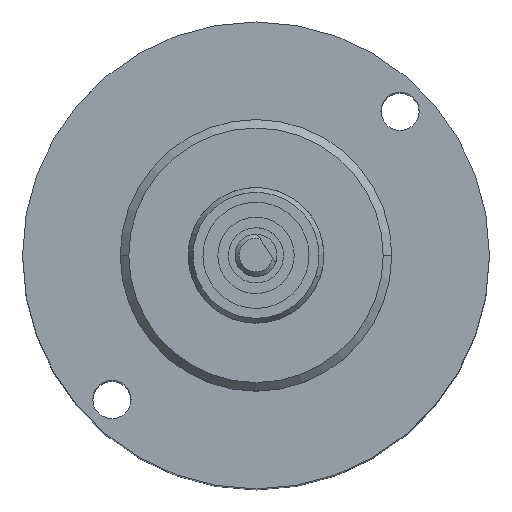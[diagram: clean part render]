
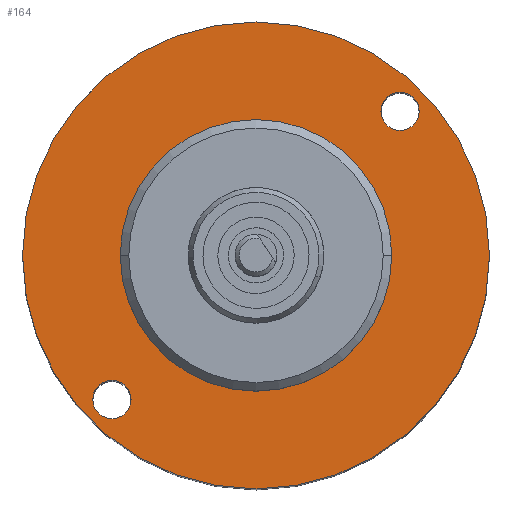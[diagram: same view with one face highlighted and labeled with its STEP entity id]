
A CAD part, top view. The second image highlights one B-rep face of the part: STEP entity #164.
In plain terms, the highlighted planar face has unit normal (0, 0, 1).
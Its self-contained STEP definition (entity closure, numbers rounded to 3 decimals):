
#10 = DIRECTION ( 'NONE',  ( 1., 0., 0. ) ) ;
#26 = CIRCLE ( 'NONE', #3374, 27.5 ) ;
#104 = ORIENTED_EDGE ( 'NONE', *, *, #1742, .F. ) ;
#164 = ADVANCED_FACE ( 'NONE', ( #1843, #1275, #2015, #1104 ), #776, .T. ) ;
#277 = AXIS2_PLACEMENT_3D ( 'NONE', #3307, #1656, #10 ) ;
#291 = AXIS2_PLACEMENT_3D ( 'NONE', #3255, #1601, #3533 ) ;
#308 = ORIENTED_EDGE ( 'NONE', *, *, #2174, .F. ) ;
#331 = VERTEX_POINT ( 'NONE', #1868 ) ;
#338 = VERTEX_POINT ( 'NONE', #3244 ) ;
#415 = VERTEX_POINT ( 'NONE', #2814 ) ;
#471 = CARTESIAN_POINT ( 'NONE',  ( 0., 0., 71. ) ) ;
#568 = CIRCLE ( 'NONE', #2908, 15.99 ) ;
#603 = AXIS2_PLACEMENT_3D ( 'NONE', #1243, #3184, #1522 ) ;
#651 = DIRECTION ( 'NONE',  ( 0., 0., 1. ) ) ;
#696 = DIRECTION ( 'NONE',  ( 1., 0., 0. ) ) ;
#725 = DIRECTION ( 'NONE',  ( 0., 0., 1. ) ) ;
#759 = DIRECTION ( 'NONE',  ( 1., 0., 0. ) ) ;
#776 = PLANE ( 'NONE',  #2319 ) ;
#791 = CIRCLE ( 'NONE', #291, 15.99 ) ;
#895 = ORIENTED_EDGE ( 'NONE', *, *, #3394, .F. ) ;
#912 = AXIS2_PLACEMENT_3D ( 'NONE', #3071, #1400, #3339 ) ;
#976 = VERTEX_POINT ( 'NONE', #3278 ) ;
#987 = CARTESIAN_POINT ( 'NONE',  ( 0., 0., 71. ) ) ;
#1050 = CIRCLE ( 'NONE', #1113, 2.25 ) ;
#1104 = FACE_OUTER_BOUND ( 'NONE', #1975, .T. ) ;
#1113 = AXIS2_PLACEMENT_3D ( 'NONE', #1515, #3446, #1803 ) ;
#1188 = ORIENTED_EDGE ( 'NONE', *, *, #3109, .T. ) ;
#1238 = VERTEX_POINT ( 'NONE', #1468 ) ;
#1243 = CARTESIAN_POINT ( 'NONE',  ( 16.97, 16.97, 71. ) ) ;
#1275 = FACE_BOUND ( 'NONE', #1807, .T. ) ;
#1308 = DIRECTION ( 'NONE',  ( 0., 0., 1. ) ) ;
#1318 = ORIENTED_EDGE ( 'NONE', *, *, #2300, .F. ) ;
#1400 = DIRECTION ( 'NONE',  ( 0., 0., 1. ) ) ;
#1437 = EDGE_CURVE ( 'NONE', #415, #3145, #26, .T. ) ;
#1438 = CIRCLE ( 'NONE', #277, 2.25 ) ;
#1468 = CARTESIAN_POINT ( 'NONE',  ( 19.22, 16.97, 71. ) ) ;
#1515 = CARTESIAN_POINT ( 'NONE',  ( 16.97, 16.97, 71. ) ) ;
#1522 = DIRECTION ( 'NONE',  ( 1., 0., 0. ) ) ;
#1601 = DIRECTION ( 'NONE',  ( 0., 0., 1. ) ) ;
#1656 = DIRECTION ( 'NONE',  ( 0., 0., 1. ) ) ;
#1667 = CARTESIAN_POINT ( 'NONE',  ( -14.72, -16.97, 71. ) ) ;
#1690 = VERTEX_POINT ( 'NONE', #3550 ) ;
#1699 = CARTESIAN_POINT ( 'NONE',  ( 27.5, 0., 71. ) ) ;
#1742 = EDGE_CURVE ( 'NONE', #2402, #1690, #1438, .T. ) ;
#1770 = ORIENTED_EDGE ( 'NONE', *, *, #1437, .T. ) ;
#1803 = DIRECTION ( 'NONE',  ( 1., 0., 0. ) ) ;
#1807 = EDGE_LOOP ( 'NONE', ( #3155, #308 ) ) ;
#1843 = FACE_BOUND ( 'NONE', #2735, .T. ) ;
#1868 = CARTESIAN_POINT ( 'NONE',  ( 15.99, 0., 71. ) ) ;
#1975 = EDGE_LOOP ( 'NONE', ( #1770, #1188 ) ) ;
#2015 = FACE_BOUND ( 'NONE', #2813, .T. ) ;
#2037 = AXIS2_PLACEMENT_3D ( 'NONE', #2983, #1308, #3250 ) ;
#2174 = EDGE_CURVE ( 'NONE', #338, #1238, #1050, .T. ) ;
#2300 = EDGE_CURVE ( 'NONE', #1690, #2402, #2831, .T. ) ;
#2302 = CIRCLE ( 'NONE', #912, 27.5 ) ;
#2314 = CARTESIAN_POINT ( 'NONE',  ( 0., 0., 71. ) ) ;
#2319 = AXIS2_PLACEMENT_3D ( 'NONE', #987, #725, #696 ) ;
#2402 = VERTEX_POINT ( 'NONE', #1667 ) ;
#2417 = DIRECTION ( 'NONE',  ( 0., 0., 1. ) ) ;
#2522 = CIRCLE ( 'NONE', #603, 2.25 ) ;
#2597 = DIRECTION ( 'NONE',  ( 1., 0., 0. ) ) ;
#2640 = EDGE_CURVE ( 'NONE', #976, #331, #568, .T. ) ;
#2735 = EDGE_LOOP ( 'NONE', ( #104, #1318 ) ) ;
#2742 = EDGE_CURVE ( 'NONE', #1238, #338, #2522, .T. ) ;
#2813 = EDGE_LOOP ( 'NONE', ( #895, #3371 ) ) ;
#2814 = CARTESIAN_POINT ( 'NONE',  ( -27.5, 0., 71. ) ) ;
#2831 = CIRCLE ( 'NONE', #2037, 2.25 ) ;
#2908 = AXIS2_PLACEMENT_3D ( 'NONE', #2314, #651, #2597 ) ;
#2983 = CARTESIAN_POINT ( 'NONE',  ( -16.97, -16.97, 71. ) ) ;
#3071 = CARTESIAN_POINT ( 'NONE',  ( 0., 0., 71. ) ) ;
#3109 = EDGE_CURVE ( 'NONE', #3145, #415, #2302, .T. ) ;
#3145 = VERTEX_POINT ( 'NONE', #1699 ) ;
#3155 = ORIENTED_EDGE ( 'NONE', *, *, #2742, .F. ) ;
#3184 = DIRECTION ( 'NONE',  ( 0., 0., 1. ) ) ;
#3244 = CARTESIAN_POINT ( 'NONE',  ( 14.72, 16.97, 71. ) ) ;
#3250 = DIRECTION ( 'NONE',  ( 1., 0., 0. ) ) ;
#3255 = CARTESIAN_POINT ( 'NONE',  ( 0., 0., 71. ) ) ;
#3278 = CARTESIAN_POINT ( 'NONE',  ( -15.99, 0., 71. ) ) ;
#3307 = CARTESIAN_POINT ( 'NONE',  ( -16.97, -16.97, 71. ) ) ;
#3339 = DIRECTION ( 'NONE',  ( 1., 0., 0. ) ) ;
#3371 = ORIENTED_EDGE ( 'NONE', *, *, #2640, .F. ) ;
#3374 = AXIS2_PLACEMENT_3D ( 'NONE', #471, #2417, #759 ) ;
#3394 = EDGE_CURVE ( 'NONE', #331, #976, #791, .T. ) ;
#3446 = DIRECTION ( 'NONE',  ( 0., 0., 1. ) ) ;
#3533 = DIRECTION ( 'NONE',  ( 1., 0., 0. ) ) ;
#3550 = CARTESIAN_POINT ( 'NONE',  ( -19.22, -16.97, 71. ) ) ;
